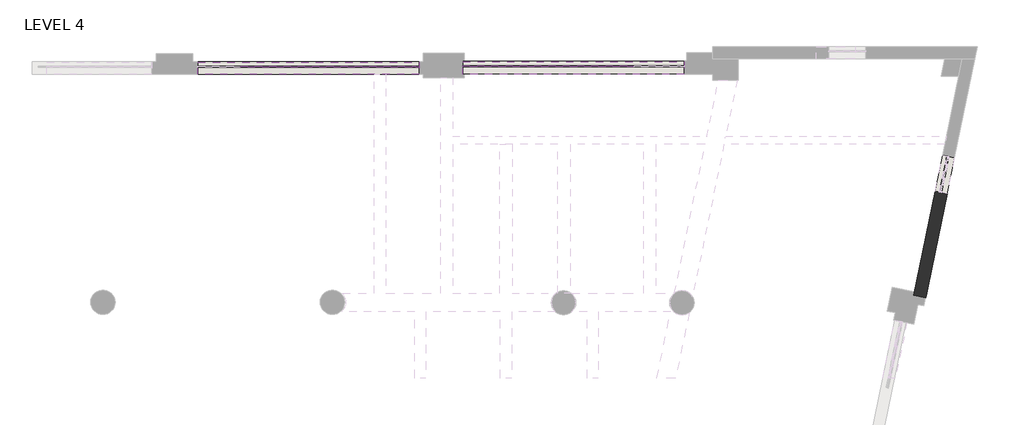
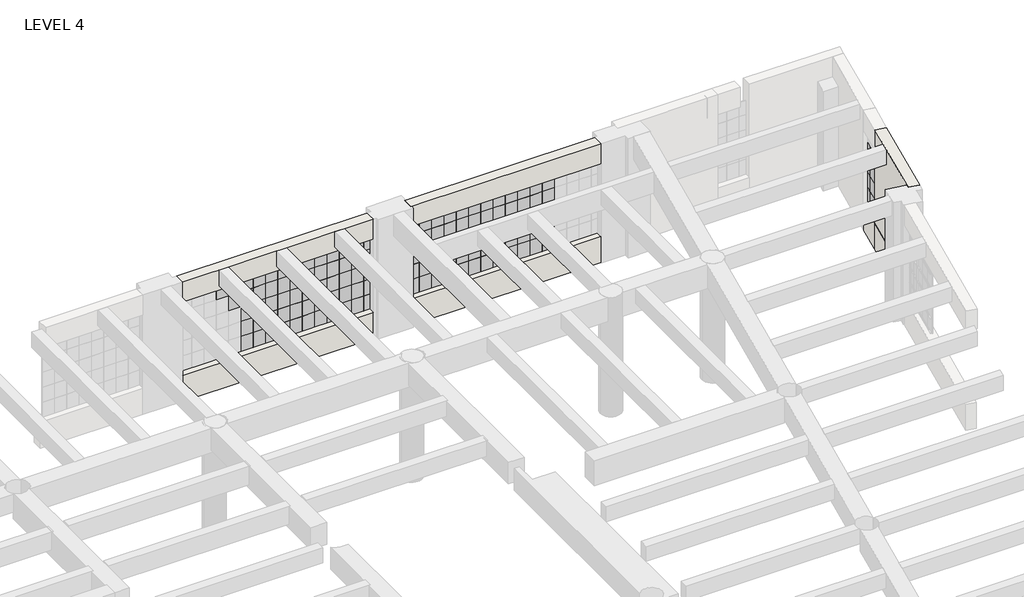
# One storey, part 24 of 26: 130 plates, 6 walls.
"""IFC4 building model written with IfcOpenShell, lengths in millimetres."""

from ifc_helpers import new_model, si_unit, frame, origin, origin_with_axes, place, context, project, spatial, polyline, outline, extrude, faceted_brep, transform, mapped, element, save
from components import system_panel_glazed_656c6057, system_panel_glazed_571c87ee, system_panel_glazed_44deb75c, system_panel_glazed_ace83418, system_panel_glazed_3772fe24

model = new_model("IFC4")

# Units and contexts
model_context = context("Model", 3, world=origin())
ifc_project = project(units=[si_unit("LENGTHUNIT", "METRE", prefix="MILLI")], contexts=[model_context])

# Site, building, storey
site = spatial("IfcSite", under=ifc_project)
building = spatial("IfcBuilding", under=site)
storey = spatial("IfcBuildingStorey", under=building, Name="LEVEL 4", Elevation=0.0)

# Plates
placement = place(None, origin())
system_panel_glazed_shape = system_panel_glazed_656c6057(model_context)
element("IfcPlate", 1, ObjectType="System Panel : Glazed", at=placement, inside=storey, context=model_context, shape_type="MappedRepresentation", body=[
    mapped(system_panel_glazed_shape, transform((11829.7290146, 117175.0421498, 800.1), x_axis=(1.0, 0.0, 0.0), y_axis=(0.0, 1.0, 0.0), z_axis=(0.0, 0.0, 1.0))),
])
element("IfcPlate", 2, ObjectType="System Panel : Glazed", at=placement, inside=storey, context=model_context, shape_type="MappedRepresentation", body=[
    mapped(system_panel_glazed_shape, transform((12185.3290147, 117175.0421498, 800.1), x_axis=(1.0, 0.0, 0.0), y_axis=(0.0, 1.0, 0.0), z_axis=(0.0, 0.0, 1.0))),
])
element("IfcPlate", 3, ObjectType="System Panel : Glazed", at=placement, inside=storey, context=model_context, shape_type="MappedRepresentation", body=[
    mapped(system_panel_glazed_shape, transform((12540.9290147, 117175.0421498, 800.1), x_axis=(1.0, 0.0, 0.0), y_axis=(0.0, 1.0, 0.0), z_axis=(0.0, 0.0, 1.0))),
])
element("IfcPlate", 4, ObjectType="System Panel : Glazed", at=placement, inside=storey, context=model_context, shape_type="MappedRepresentation", body=[
    mapped(system_panel_glazed_shape, transform((12896.5290147, 117175.0421498, 800.1), x_axis=(1.0, 0.0, 0.0), y_axis=(0.0, 1.0, 0.0), z_axis=(0.0, 0.0, 1.0))),
])
element("IfcPlate", 5, ObjectType="System Panel : Glazed", at=placement, inside=storey, context=model_context, shape_type="MappedRepresentation", body=[
    mapped(system_panel_glazed_shape, transform((23596.5298397, 114237.3310321, 800.1), x_axis=(0.2022212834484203, 0.979339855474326, 0.0), y_axis=(-0.979339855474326, 0.2022212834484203, 0.0), z_axis=(0.0, 0.0, 1.0))),
])
element("IfcPlate", 6, ObjectType="System Panel : Glazed", at=placement, inside=storey, context=model_context, shape_type="MappedRepresentation", body=[
    mapped(system_panel_glazed_shape, transform((23668.4397282, 114585.5842849, 800.1), x_axis=(0.2022212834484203, 0.979339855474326, 0.0), y_axis=(-0.979339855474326, 0.2022212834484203, 0.0), z_axis=(0.0, 0.0, 1.0))),
])
element("IfcPlate", 7, ObjectType="System Panel : Glazed", at=placement, inside=storey, context=model_context, shape_type="MappedRepresentation", body=[
    mapped(system_panel_glazed_shape, transform((7011.5027265, 117161.3480443, 800.1), x_axis=(1.0, 0.0, 0.0), y_axis=(0.0, 1.0, 0.0), z_axis=(0.0, 0.0, 1.0))),
])
element("IfcPlate", 8, ObjectType="System Panel : Glazed", at=placement, inside=storey, context=model_context, shape_type="MappedRepresentation", body=[
    mapped(system_panel_glazed_shape, transform((7367.1027265, 117161.3480443, 800.1), x_axis=(1.0, 0.0, 0.0), y_axis=(0.0, 1.0, 0.0), z_axis=(0.0, 0.0, 1.0))),
])
element("IfcPlate", 9, ObjectType="System Panel : Glazed", at=placement, inside=storey, context=model_context, shape_type="MappedRepresentation", body=[
    mapped(system_panel_glazed_shape, transform((7722.7027265, 117161.3480443, 800.1), x_axis=(1.0, 0.0, 0.0), y_axis=(0.0, 1.0, 0.0), z_axis=(0.0, 0.0, 1.0))),
])
element("IfcPlate", 10, ObjectType="System Panel : Glazed", at=placement, inside=storey, context=model_context, shape_type="MappedRepresentation", body=[
    mapped(system_panel_glazed_shape, transform((8078.3027265, 117161.3480443, 800.1), x_axis=(1.0, 0.0, 0.0), y_axis=(0.0, 1.0, 0.0), z_axis=(0.0, 0.0, 1.0))),
])
element("IfcPlate", 11, ObjectType="System Panel : Glazed", at=placement, inside=storey, context=model_context, shape_type="MappedRepresentation", body=[
    mapped(system_panel_glazed_shape, transform((8433.9027265, 117161.3480443, 800.1), x_axis=(1.0, 0.0, 0.0), y_axis=(0.0, 1.0, 0.0), z_axis=(0.0, 0.0, 1.0))),
])
element("IfcPlate", 12, ObjectType="System Panel : Glazed", at=placement, inside=storey, context=model_context, shape_type="MappedRepresentation", body=[
    mapped(system_panel_glazed_shape, transform((8789.5027265, 117161.3480443, 800.1), x_axis=(1.0, 0.0, 0.0), y_axis=(0.0, 1.0, 0.0), z_axis=(0.0, 0.0, 1.0))),
])
element("IfcPlate", 13, ObjectType="System Panel : Glazed", at=placement, inside=storey, context=model_context, shape_type="MappedRepresentation", body=[
    mapped(system_panel_glazed_shape, transform((9145.1027265, 117161.3480443, 800.1), x_axis=(1.0, 0.0, 0.0), y_axis=(0.0, 1.0, 0.0), z_axis=(0.0, 0.0, 1.0))),
])
element("IfcPlate", 14, ObjectType="System Panel : Glazed", at=placement, inside=storey, context=model_context, shape_type="MappedRepresentation", body=[
    mapped(system_panel_glazed_shape, transform((9500.7027265, 117161.3480443, 800.1), x_axis=(1.0, 0.0, 0.0), y_axis=(0.0, 1.0, 0.0), z_axis=(0.0, 0.0, 1.0))),
])
element("IfcPlate", 15, ObjectType="System Panel : Glazed", at=placement, inside=storey, context=model_context, shape_type="MappedRepresentation", body=[
    mapped(system_panel_glazed_shape, transform((7011.5027265, 117161.3480443, 1257.3), x_axis=(1.0, 0.0, 0.0), y_axis=(0.0, 1.0, 0.0), z_axis=(0.0, 0.0, 1.0))),
])
element("IfcPlate", 16, ObjectType="System Panel : Glazed", at=placement, inside=storey, context=model_context, shape_type="MappedRepresentation", body=[
    mapped(system_panel_glazed_shape, transform((7367.1027265, 117161.3480443, 1257.3), x_axis=(1.0, 0.0, 0.0), y_axis=(0.0, 1.0, 0.0), z_axis=(0.0, 0.0, 1.0))),
])
element("IfcPlate", 17, ObjectType="System Panel : Glazed", at=placement, inside=storey, context=model_context, shape_type="MappedRepresentation", body=[
    mapped(system_panel_glazed_shape, transform((7722.7027265, 117161.3480443, 1257.3), x_axis=(1.0, 0.0, 0.0), y_axis=(0.0, 1.0, 0.0), z_axis=(0.0, 0.0, 1.0))),
])
element("IfcPlate", 18, ObjectType="System Panel : Glazed", at=placement, inside=storey, context=model_context, shape_type="MappedRepresentation", body=[
    mapped(system_panel_glazed_shape, transform((8078.3027265, 117161.3480443, 1257.3), x_axis=(1.0, 0.0, 0.0), y_axis=(0.0, 1.0, 0.0), z_axis=(0.0, 0.0, 1.0))),
])
element("IfcPlate", 19, ObjectType="System Panel : Glazed", at=placement, inside=storey, context=model_context, shape_type="MappedRepresentation", body=[
    mapped(system_panel_glazed_shape, transform((8433.9027265, 117161.3480443, 1257.3), x_axis=(1.0, 0.0, 0.0), y_axis=(0.0, 1.0, 0.0), z_axis=(0.0, 0.0, 1.0))),
])
element("IfcPlate", 20, ObjectType="System Panel : Glazed", at=placement, inside=storey, context=model_context, shape_type="MappedRepresentation", body=[
    mapped(system_panel_glazed_shape, transform((8789.5027265, 117161.3480443, 1257.3), x_axis=(1.0, 0.0, 0.0), y_axis=(0.0, 1.0, 0.0), z_axis=(0.0, 0.0, 1.0))),
])
element("IfcPlate", 21, ObjectType="System Panel : Glazed", at=placement, inside=storey, context=model_context, shape_type="MappedRepresentation", body=[
    mapped(system_panel_glazed_shape, transform((9145.1027265, 117161.3480443, 1257.3), x_axis=(1.0, 0.0, 0.0), y_axis=(0.0, 1.0, 0.0), z_axis=(0.0, 0.0, 1.0))),
])
element("IfcPlate", 22, ObjectType="System Panel : Glazed", at=placement, inside=storey, context=model_context, shape_type="MappedRepresentation", body=[
    mapped(system_panel_glazed_shape, transform((9500.7027265, 117161.3480443, 1257.3), x_axis=(1.0, 0.0, 0.0), y_axis=(0.0, 1.0, 0.0), z_axis=(0.0, 0.0, 1.0))),
])
element("IfcPlate", 23, ObjectType="System Panel : Glazed", at=placement, inside=storey, context=model_context, shape_type="MappedRepresentation", body=[
    mapped(system_panel_glazed_shape, transform((7011.5027265, 117161.3480443, 1714.5), x_axis=(1.0, 0.0, 0.0), y_axis=(0.0, 1.0, 0.0), z_axis=(0.0, 0.0, 1.0))),
])
element("IfcPlate", 24, ObjectType="System Panel : Glazed", at=placement, inside=storey, context=model_context, shape_type="MappedRepresentation", body=[
    mapped(system_panel_glazed_shape, transform((7367.1027265, 117161.3480443, 1714.5), x_axis=(1.0, 0.0, 0.0), y_axis=(0.0, 1.0, 0.0), z_axis=(0.0, 0.0, 1.0))),
])
element("IfcPlate", 25, ObjectType="System Panel : Glazed", at=placement, inside=storey, context=model_context, shape_type="MappedRepresentation", body=[
    mapped(system_panel_glazed_shape, transform((7722.7027265, 117161.3480443, 1714.5), x_axis=(1.0, 0.0, 0.0), y_axis=(0.0, 1.0, 0.0), z_axis=(0.0, 0.0, 1.0))),
])
element("IfcPlate", 26, ObjectType="System Panel : Glazed", at=placement, inside=storey, context=model_context, shape_type="MappedRepresentation", body=[
    mapped(system_panel_glazed_shape, transform((8078.3027265, 117161.3480443, 1714.5), x_axis=(1.0, 0.0, 0.0), y_axis=(0.0, 1.0, 0.0), z_axis=(0.0, 0.0, 1.0))),
])
element("IfcPlate", 27, ObjectType="System Panel : Glazed", at=placement, inside=storey, context=model_context, shape_type="MappedRepresentation", body=[
    mapped(system_panel_glazed_shape, transform((8433.9027265, 117161.3480443, 1714.5), x_axis=(1.0, 0.0, 0.0), y_axis=(0.0, 1.0, 0.0), z_axis=(0.0, 0.0, 1.0))),
])
element("IfcPlate", 28, ObjectType="System Panel : Glazed", at=placement, inside=storey, context=model_context, shape_type="MappedRepresentation", body=[
    mapped(system_panel_glazed_shape, transform((8789.5027265, 117161.3480443, 1714.5), x_axis=(1.0, 0.0, 0.0), y_axis=(0.0, 1.0, 0.0), z_axis=(0.0, 0.0, 1.0))),
])
element("IfcPlate", 29, ObjectType="System Panel : Glazed", at=placement, inside=storey, context=model_context, shape_type="MappedRepresentation", body=[
    mapped(system_panel_glazed_shape, transform((9145.1027265, 117161.3480443, 1714.5), x_axis=(1.0, 0.0, 0.0), y_axis=(0.0, 1.0, 0.0), z_axis=(0.0, 0.0, 1.0))),
])
element("IfcPlate", 30, ObjectType="System Panel : Glazed", at=placement, inside=storey, context=model_context, shape_type="MappedRepresentation", body=[
    mapped(system_panel_glazed_shape, transform((9500.7027265, 117161.3480443, 1714.5), x_axis=(1.0, 0.0, 0.0), y_axis=(0.0, 1.0, 0.0), z_axis=(0.0, 0.0, 1.0))),
])
element("IfcPlate", 31, ObjectType="System Panel : Glazed", at=placement, inside=storey, context=model_context, shape_type="MappedRepresentation", body=[
    mapped(system_panel_glazed_shape, transform((6655.9027265, 117161.3480443, 2171.7), x_axis=(1.0, 0.0, 0.0), y_axis=(0.0, 1.0, 0.0), z_axis=(0.0, 0.0, 1.0))),
])
element("IfcPlate", 32, ObjectType="System Panel : Glazed", at=placement, inside=storey, context=model_context, shape_type="MappedRepresentation", body=[
    mapped(system_panel_glazed_shape, transform((7011.5027265, 117161.3480443, 2171.7), x_axis=(1.0, 0.0, 0.0), y_axis=(0.0, 1.0, 0.0), z_axis=(0.0, 0.0, 1.0))),
])
element("IfcPlate", 33, ObjectType="System Panel : Glazed", at=placement, inside=storey, context=model_context, shape_type="MappedRepresentation", body=[
    mapped(system_panel_glazed_shape, transform((7367.1027265, 117161.3480443, 2171.7), x_axis=(1.0, 0.0, 0.0), y_axis=(0.0, 1.0, 0.0), z_axis=(0.0, 0.0, 1.0))),
])
element("IfcPlate", 34, ObjectType="System Panel : Glazed", at=placement, inside=storey, context=model_context, shape_type="MappedRepresentation", body=[
    mapped(system_panel_glazed_shape, transform((7722.7027265, 117161.3480443, 2171.7), x_axis=(1.0, 0.0, 0.0), y_axis=(0.0, 1.0, 0.0), z_axis=(0.0, 0.0, 1.0))),
])
element("IfcPlate", 35, ObjectType="System Panel : Glazed", at=placement, inside=storey, context=model_context, shape_type="MappedRepresentation", body=[
    mapped(system_panel_glazed_shape, transform((8078.3027265, 117161.3480443, 2171.7), x_axis=(1.0, 0.0, 0.0), y_axis=(0.0, 1.0, 0.0), z_axis=(0.0, 0.0, 1.0))),
])
element("IfcPlate", 36, ObjectType="System Panel : Glazed", at=placement, inside=storey, context=model_context, shape_type="MappedRepresentation", body=[
    mapped(system_panel_glazed_shape, transform((8433.9027265, 117161.3480443, 2171.7), x_axis=(1.0, 0.0, 0.0), y_axis=(0.0, 1.0, 0.0), z_axis=(0.0, 0.0, 1.0))),
])
element("IfcPlate", 37, ObjectType="System Panel : Glazed", at=placement, inside=storey, context=model_context, shape_type="MappedRepresentation", body=[
    mapped(system_panel_glazed_shape, transform((8789.5027265, 117161.3480443, 2171.7), x_axis=(1.0, 0.0, 0.0), y_axis=(0.0, 1.0, 0.0), z_axis=(0.0, 0.0, 1.0))),
])
element("IfcPlate", 38, ObjectType="System Panel : Glazed", at=placement, inside=storey, context=model_context, shape_type="MappedRepresentation", body=[
    mapped(system_panel_glazed_shape, transform((9145.1027265, 117161.3480443, 2171.7), x_axis=(1.0, 0.0, 0.0), y_axis=(0.0, 1.0, 0.0), z_axis=(0.0, 0.0, 1.0))),
])
element("IfcPlate", 39, ObjectType="System Panel : Glazed", at=placement, inside=storey, context=model_context, shape_type="MappedRepresentation", body=[
    mapped(system_panel_glazed_shape, transform((9500.7027265, 117161.3480443, 2171.7), x_axis=(1.0, 0.0, 0.0), y_axis=(0.0, 1.0, 0.0), z_axis=(0.0, 0.0, 1.0))),
])
element("IfcPlate", 40, ObjectType="System Panel : Glazed", at=placement, inside=storey, context=model_context, shape_type="MappedRepresentation", body=[
    mapped(system_panel_glazed_shape, transform((13252.1290147, 117175.0421498, 800.1), x_axis=(1.0, 0.0, 0.0), y_axis=(0.0, 1.0, 0.0), z_axis=(0.0, 0.0, 1.0))),
])
element("IfcPlate", 41, ObjectType="System Panel : Glazed", at=placement, inside=storey, context=model_context, shape_type="MappedRepresentation", body=[
    mapped(system_panel_glazed_shape, transform((13607.7290147, 117175.0421498, 800.1), x_axis=(1.0, 0.0, 0.0), y_axis=(0.0, 1.0, 0.0), z_axis=(0.0, 0.0, 1.0))),
])
element("IfcPlate", 42, ObjectType="System Panel : Glazed", at=placement, inside=storey, context=model_context, shape_type="MappedRepresentation", body=[
    mapped(system_panel_glazed_shape, transform((13963.3290147, 117175.0421498, 800.1), x_axis=(1.0, 0.0, 0.0), y_axis=(0.0, 1.0, 0.0), z_axis=(0.0, 0.0, 1.0))),
])
element("IfcPlate", 43, ObjectType="System Panel : Glazed", at=placement, inside=storey, context=model_context, shape_type="MappedRepresentation", body=[
    mapped(system_panel_glazed_shape, transform((14318.9290147, 117175.0421498, 800.1), x_axis=(1.0, 0.0, 0.0), y_axis=(0.0, 1.0, 0.0), z_axis=(0.0, 0.0, 1.0))),
])
element("IfcPlate", 44, ObjectType="System Panel : Glazed", at=placement, inside=storey, context=model_context, shape_type="MappedRepresentation", body=[
    mapped(system_panel_glazed_shape, transform((14674.5290147, 117175.0421498, 800.1), x_axis=(1.0, 0.0, 0.0), y_axis=(0.0, 1.0, 0.0), z_axis=(0.0, 0.0, 1.0))),
])
element("IfcPlate", 45, ObjectType="System Panel : Glazed", at=placement, inside=storey, context=model_context, shape_type="MappedRepresentation", body=[
    mapped(system_panel_glazed_shape, transform((15030.1290147, 117175.0421498, 800.1), x_axis=(1.0, 0.0, 0.0), y_axis=(0.0, 1.0, 0.0), z_axis=(0.0, 0.0, 1.0))),
])
element("IfcPlate", 46, ObjectType="System Panel : Glazed", at=placement, inside=storey, context=model_context, shape_type="MappedRepresentation", body=[
    mapped(system_panel_glazed_shape, transform((15385.7290147, 117175.0421498, 800.1), x_axis=(1.0, 0.0, 0.0), y_axis=(0.0, 1.0, 0.0), z_axis=(0.0, 0.0, 1.0))),
])
element("IfcPlate", 47, ObjectType="System Panel : Glazed", at=placement, inside=storey, context=model_context, shape_type="MappedRepresentation", body=[
    mapped(system_panel_glazed_shape, transform((15741.3290147, 117175.0421498, 800.1), x_axis=(1.0, 0.0, 0.0), y_axis=(0.0, 1.0, 0.0), z_axis=(0.0, 0.0, 1.0))),
])
element("IfcPlate", 48, ObjectType="System Panel : Glazed", at=placement, inside=storey, context=model_context, shape_type="MappedRepresentation", body=[
    mapped(system_panel_glazed_shape, transform((11829.7290146, 117175.0421498, 1257.3), x_axis=(1.0, 0.0, 0.0), y_axis=(0.0, 1.0, 0.0), z_axis=(0.0, 0.0, 1.0))),
])
element("IfcPlate", 49, ObjectType="System Panel : Glazed", at=placement, inside=storey, context=model_context, shape_type="MappedRepresentation", body=[
    mapped(system_panel_glazed_shape, transform((12185.3290147, 117175.0421498, 1257.3), x_axis=(1.0, 0.0, 0.0), y_axis=(0.0, 1.0, 0.0), z_axis=(0.0, 0.0, 1.0))),
])
element("IfcPlate", 50, ObjectType="System Panel : Glazed", at=placement, inside=storey, context=model_context, shape_type="MappedRepresentation", body=[
    mapped(system_panel_glazed_shape, transform((12540.9290147, 117175.0421498, 1257.3), x_axis=(1.0, 0.0, 0.0), y_axis=(0.0, 1.0, 0.0), z_axis=(0.0, 0.0, 1.0))),
])
element("IfcPlate", 51, ObjectType="System Panel : Glazed", at=placement, inside=storey, context=model_context, shape_type="MappedRepresentation", body=[
    mapped(system_panel_glazed_shape, transform((12896.5290147, 117175.0421498, 1257.3), x_axis=(1.0, 0.0, 0.0), y_axis=(0.0, 1.0, 0.0), z_axis=(0.0, 0.0, 1.0))),
])
element("IfcPlate", 52, ObjectType="System Panel : Glazed", at=placement, inside=storey, context=model_context, shape_type="MappedRepresentation", body=[
    mapped(system_panel_glazed_shape, transform((13252.1290147, 117175.0421498, 1257.3), x_axis=(1.0, 0.0, 0.0), y_axis=(0.0, 1.0, 0.0), z_axis=(0.0, 0.0, 1.0))),
])
element("IfcPlate", 53, ObjectType="System Panel : Glazed", at=placement, inside=storey, context=model_context, shape_type="MappedRepresentation", body=[
    mapped(system_panel_glazed_shape, transform((13607.7290147, 117175.0421498, 1257.3), x_axis=(1.0, 0.0, 0.0), y_axis=(0.0, 1.0, 0.0), z_axis=(0.0, 0.0, 1.0))),
])
element("IfcPlate", 54, ObjectType="System Panel : Glazed", at=placement, inside=storey, context=model_context, shape_type="MappedRepresentation", body=[
    mapped(system_panel_glazed_shape, transform((13963.3290147, 117175.0421498, 1257.3), x_axis=(1.0, 0.0, 0.0), y_axis=(0.0, 1.0, 0.0), z_axis=(0.0, 0.0, 1.0))),
])
element("IfcPlate", 55, ObjectType="System Panel : Glazed", at=placement, inside=storey, context=model_context, shape_type="MappedRepresentation", body=[
    mapped(system_panel_glazed_shape, transform((14318.9290147, 117175.0421498, 1257.3), x_axis=(1.0, 0.0, 0.0), y_axis=(0.0, 1.0, 0.0), z_axis=(0.0, 0.0, 1.0))),
])
element("IfcPlate", 56, ObjectType="System Panel : Glazed", at=placement, inside=storey, context=model_context, shape_type="MappedRepresentation", body=[
    mapped(system_panel_glazed_shape, transform((14674.5290147, 117175.0421498, 1257.3), x_axis=(1.0, 0.0, 0.0), y_axis=(0.0, 1.0, 0.0), z_axis=(0.0, 0.0, 1.0))),
])
element("IfcPlate", 57, ObjectType="System Panel : Glazed", at=placement, inside=storey, context=model_context, shape_type="MappedRepresentation", body=[
    mapped(system_panel_glazed_shape, transform((15030.1290147, 117175.0421498, 1257.3), x_axis=(1.0, 0.0, 0.0), y_axis=(0.0, 1.0, 0.0), z_axis=(0.0, 0.0, 1.0))),
])
element("IfcPlate", 58, ObjectType="System Panel : Glazed", at=placement, inside=storey, context=model_context, shape_type="MappedRepresentation", body=[
    mapped(system_panel_glazed_shape, transform((15385.7290147, 117175.0421498, 1257.3), x_axis=(1.0, 0.0, 0.0), y_axis=(0.0, 1.0, 0.0), z_axis=(0.0, 0.0, 1.0))),
])
element("IfcPlate", 59, ObjectType="System Panel : Glazed", at=placement, inside=storey, context=model_context, shape_type="MappedRepresentation", body=[
    mapped(system_panel_glazed_shape, transform((15741.3290147, 117175.0421498, 1257.3), x_axis=(1.0, 0.0, 0.0), y_axis=(0.0, 1.0, 0.0), z_axis=(0.0, 0.0, 1.0))),
])
element("IfcPlate", 60, ObjectType="System Panel : Glazed", at=placement, inside=storey, context=model_context, shape_type="MappedRepresentation", body=[
    mapped(system_panel_glazed_shape, transform((11829.7290146, 117175.0421498, 1714.5), x_axis=(1.0, 0.0, 0.0), y_axis=(0.0, 1.0, 0.0), z_axis=(0.0, 0.0, 1.0))),
])
element("IfcPlate", 61, ObjectType="System Panel : Glazed", at=placement, inside=storey, context=model_context, shape_type="MappedRepresentation", body=[
    mapped(system_panel_glazed_shape, transform((12185.3290147, 117175.0421498, 1714.5), x_axis=(1.0, 0.0, 0.0), y_axis=(0.0, 1.0, 0.0), z_axis=(0.0, 0.0, 1.0))),
])
element("IfcPlate", 62, ObjectType="System Panel : Glazed", at=placement, inside=storey, context=model_context, shape_type="MappedRepresentation", body=[
    mapped(system_panel_glazed_shape, transform((12540.9290147, 117175.0421498, 1714.5), x_axis=(1.0, 0.0, 0.0), y_axis=(0.0, 1.0, 0.0), z_axis=(0.0, 0.0, 1.0))),
])
element("IfcPlate", 63, ObjectType="System Panel : Glazed", at=placement, inside=storey, context=model_context, shape_type="MappedRepresentation", body=[
    mapped(system_panel_glazed_shape, transform((12896.5290147, 117175.0421498, 1714.5), x_axis=(1.0, 0.0, 0.0), y_axis=(0.0, 1.0, 0.0), z_axis=(0.0, 0.0, 1.0))),
])
element("IfcPlate", 64, ObjectType="System Panel : Glazed", at=placement, inside=storey, context=model_context, shape_type="MappedRepresentation", body=[
    mapped(system_panel_glazed_shape, transform((13252.1290147, 117175.0421498, 1714.5), x_axis=(1.0, 0.0, 0.0), y_axis=(0.0, 1.0, 0.0), z_axis=(0.0, 0.0, 1.0))),
])
element("IfcPlate", 65, ObjectType="System Panel : Glazed", at=placement, inside=storey, context=model_context, shape_type="MappedRepresentation", body=[
    mapped(system_panel_glazed_shape, transform((13607.7290147, 117175.0421498, 1714.5), x_axis=(1.0, 0.0, 0.0), y_axis=(0.0, 1.0, 0.0), z_axis=(0.0, 0.0, 1.0))),
])
element("IfcPlate", 66, ObjectType="System Panel : Glazed", at=placement, inside=storey, context=model_context, shape_type="MappedRepresentation", body=[
    mapped(system_panel_glazed_shape, transform((13963.3290147, 117175.0421498, 1714.5), x_axis=(1.0, 0.0, 0.0), y_axis=(0.0, 1.0, 0.0), z_axis=(0.0, 0.0, 1.0))),
])
element("IfcPlate", 67, ObjectType="System Panel : Glazed", at=placement, inside=storey, context=model_context, shape_type="MappedRepresentation", body=[
    mapped(system_panel_glazed_shape, transform((14318.9290147, 117175.0421498, 1714.5), x_axis=(1.0, 0.0, 0.0), y_axis=(0.0, 1.0, 0.0), z_axis=(0.0, 0.0, 1.0))),
])
element("IfcPlate", 68, ObjectType="System Panel : Glazed", at=placement, inside=storey, context=model_context, shape_type="MappedRepresentation", body=[
    mapped(system_panel_glazed_shape, transform((14674.5290147, 117175.0421498, 1714.5), x_axis=(1.0, 0.0, 0.0), y_axis=(0.0, 1.0, 0.0), z_axis=(0.0, 0.0, 1.0))),
])
element("IfcPlate", 69, ObjectType="System Panel : Glazed", at=placement, inside=storey, context=model_context, shape_type="MappedRepresentation", body=[
    mapped(system_panel_glazed_shape, transform((15030.1290147, 117175.0421498, 1714.5), x_axis=(1.0, 0.0, 0.0), y_axis=(0.0, 1.0, 0.0), z_axis=(0.0, 0.0, 1.0))),
])
element("IfcPlate", 70, ObjectType="System Panel : Glazed", at=placement, inside=storey, context=model_context, shape_type="MappedRepresentation", body=[
    mapped(system_panel_glazed_shape, transform((15385.7290147, 117175.0421498, 1714.5), x_axis=(1.0, 0.0, 0.0), y_axis=(0.0, 1.0, 0.0), z_axis=(0.0, 0.0, 1.0))),
])
element("IfcPlate", 71, ObjectType="System Panel : Glazed", at=placement, inside=storey, context=model_context, shape_type="MappedRepresentation", body=[
    mapped(system_panel_glazed_shape, transform((15741.3290147, 117175.0421498, 1714.5), x_axis=(1.0, 0.0, 0.0), y_axis=(0.0, 1.0, 0.0), z_axis=(0.0, 0.0, 1.0))),
])
element("IfcPlate", 72, ObjectType="System Panel : Glazed", at=placement, inside=storey, context=model_context, shape_type="MappedRepresentation", body=[
    mapped(system_panel_glazed_shape, transform((11829.7290146, 117175.0421498, 2171.7), x_axis=(1.0, 0.0, 0.0), y_axis=(0.0, 1.0, 0.0), z_axis=(0.0, 0.0, 1.0))),
])
element("IfcPlate", 73, ObjectType="System Panel : Glazed", at=placement, inside=storey, context=model_context, shape_type="MappedRepresentation", body=[
    mapped(system_panel_glazed_shape, transform((12185.3290147, 117175.0421498, 2171.7), x_axis=(1.0, 0.0, 0.0), y_axis=(0.0, 1.0, 0.0), z_axis=(0.0, 0.0, 1.0))),
])
element("IfcPlate", 74, ObjectType="System Panel : Glazed", at=placement, inside=storey, context=model_context, shape_type="MappedRepresentation", body=[
    mapped(system_panel_glazed_shape, transform((12540.9290147, 117175.0421498, 2171.7), x_axis=(1.0, 0.0, 0.0), y_axis=(0.0, 1.0, 0.0), z_axis=(0.0, 0.0, 1.0))),
])
element("IfcPlate", 75, ObjectType="System Panel : Glazed", at=placement, inside=storey, context=model_context, shape_type="MappedRepresentation", body=[
    mapped(system_panel_glazed_shape, transform((12896.5290147, 117175.0421498, 2171.7), x_axis=(1.0, 0.0, 0.0), y_axis=(0.0, 1.0, 0.0), z_axis=(0.0, 0.0, 1.0))),
])
element("IfcPlate", 76, ObjectType="System Panel : Glazed", at=placement, inside=storey, context=model_context, shape_type="MappedRepresentation", body=[
    mapped(system_panel_glazed_shape, transform((13252.1290147, 117175.0421498, 2171.7), x_axis=(1.0, 0.0, 0.0), y_axis=(0.0, 1.0, 0.0), z_axis=(0.0, 0.0, 1.0))),
])
element("IfcPlate", 77, ObjectType="System Panel : Glazed", at=placement, inside=storey, context=model_context, shape_type="MappedRepresentation", body=[
    mapped(system_panel_glazed_shape, transform((13607.7290147, 117175.0421498, 2171.7), x_axis=(1.0, 0.0, 0.0), y_axis=(0.0, 1.0, 0.0), z_axis=(0.0, 0.0, 1.0))),
])
element("IfcPlate", 78, ObjectType="System Panel : Glazed", at=placement, inside=storey, context=model_context, shape_type="MappedRepresentation", body=[
    mapped(system_panel_glazed_shape, transform((13963.3290147, 117175.0421498, 2171.7), x_axis=(1.0, 0.0, 0.0), y_axis=(0.0, 1.0, 0.0), z_axis=(0.0, 0.0, 1.0))),
])
element("IfcPlate", 79, ObjectType="System Panel : Glazed", at=placement, inside=storey, context=model_context, shape_type="MappedRepresentation", body=[
    mapped(system_panel_glazed_shape, transform((14318.9290147, 117175.0421498, 2171.7), x_axis=(1.0, 0.0, 0.0), y_axis=(0.0, 1.0, 0.0), z_axis=(0.0, 0.0, 1.0))),
])
element("IfcPlate", 80, ObjectType="System Panel : Glazed", at=placement, inside=storey, context=model_context, shape_type="MappedRepresentation", body=[
    mapped(system_panel_glazed_shape, transform((14674.5290147, 117175.0421498, 2171.7), x_axis=(1.0, 0.0, 0.0), y_axis=(0.0, 1.0, 0.0), z_axis=(0.0, 0.0, 1.0))),
])
element("IfcPlate", 81, ObjectType="System Panel : Glazed", at=placement, inside=storey, context=model_context, shape_type="MappedRepresentation", body=[
    mapped(system_panel_glazed_shape, transform((15030.1290147, 117175.0421498, 2171.7), x_axis=(1.0, 0.0, 0.0), y_axis=(0.0, 1.0, 0.0), z_axis=(0.0, 0.0, 1.0))),
])
element("IfcPlate", 82, ObjectType="System Panel : Glazed", at=placement, inside=storey, context=model_context, shape_type="MappedRepresentation", body=[
    mapped(system_panel_glazed_shape, transform((15385.7290147, 117175.0421498, 2171.7), x_axis=(1.0, 0.0, 0.0), y_axis=(0.0, 1.0, 0.0), z_axis=(0.0, 0.0, 1.0))),
])
element("IfcPlate", 83, ObjectType="System Panel : Glazed", at=placement, inside=storey, context=model_context, shape_type="MappedRepresentation", body=[
    mapped(system_panel_glazed_shape, transform((15741.3290147, 117175.0421498, 2171.7), x_axis=(1.0, 0.0, 0.0), y_axis=(0.0, 1.0, 0.0), z_axis=(0.0, 0.0, 1.0))),
])
element("IfcPlate", 84, ObjectType="System Panel : Glazed", at=placement, inside=storey, context=model_context, shape_type="MappedRepresentation", body=[
    mapped(system_panel_glazed_shape, transform((23596.5298397, 114237.3310321, 1257.3), x_axis=(0.2022212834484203, 0.979339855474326, 0.0), y_axis=(-0.979339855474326, 0.2022212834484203, 0.0), z_axis=(0.0, 0.0, 1.0))),
])
element("IfcPlate", 85, ObjectType="System Panel : Glazed", at=placement, inside=storey, context=model_context, shape_type="MappedRepresentation", body=[
    mapped(system_panel_glazed_shape, transform((23668.4397282, 114585.5842849, 1257.3), x_axis=(0.2022212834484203, 0.979339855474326, 0.0), y_axis=(-0.979339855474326, 0.2022212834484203, 0.0), z_axis=(0.0, 0.0, 1.0))),
])
element("IfcPlate", 86, ObjectType="System Panel : Glazed", at=placement, inside=storey, context=model_context, shape_type="MappedRepresentation", body=[
    mapped(system_panel_glazed_shape, transform((23596.5298397, 114237.3310321, 1714.5), x_axis=(0.2022212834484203, 0.979339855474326, 0.0), y_axis=(-0.979339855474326, 0.2022212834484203, 0.0), z_axis=(0.0, 0.0, 1.0))),
])
element("IfcPlate", 87, ObjectType="System Panel : Glazed", at=placement, inside=storey, context=model_context, shape_type="MappedRepresentation", body=[
    mapped(system_panel_glazed_shape, transform((23668.4397282, 114585.5842849, 1714.5), x_axis=(0.2022212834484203, 0.979339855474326, 0.0), y_axis=(-0.979339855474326, 0.2022212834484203, 0.0), z_axis=(0.0, 0.0, 1.0))),
])
element("IfcPlate", 88, ObjectType="System Panel : Glazed", at=placement, inside=storey, context=model_context, shape_type="MappedRepresentation", body=[
    mapped(system_panel_glazed_shape, transform((23596.5298397, 114237.3310321, 2171.7), x_axis=(0.2022212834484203, 0.979339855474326, 0.0), y_axis=(-0.979339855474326, 0.2022212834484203, 0.0), z_axis=(0.0, 0.0, 1.0))),
])
element("IfcPlate", 89, ObjectType="System Panel : Glazed", at=placement, inside=storey, context=model_context, shape_type="MappedRepresentation", body=[
    mapped(system_panel_glazed_shape, transform((23668.4397282, 114585.5842849, 2171.7), x_axis=(0.2022212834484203, 0.979339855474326, 0.0), y_axis=(-0.979339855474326, 0.2022212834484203, 0.0), z_axis=(0.0, 0.0, 1.0))),
])
element("IfcPlate", 90, ObjectType="System Panel : Glazed", at=placement, inside=storey, context=model_context, shape_type="MappedRepresentation", body=[
    mapped(system_panel_glazed_shape, transform((9856.3027265, 117161.3480443, 800.1), x_axis=(1.0, 0.0, 0.0), y_axis=(0.0, 1.0, 0.0), z_axis=(0.0, 0.0, 1.0))),
])
element("IfcPlate", 91, ObjectType="System Panel : Glazed", at=placement, inside=storey, context=model_context, shape_type="MappedRepresentation", body=[
    mapped(system_panel_glazed_shape, transform((9856.3027265, 117161.3480443, 1257.3), x_axis=(1.0, 0.0, 0.0), y_axis=(0.0, 1.0, 0.0), z_axis=(0.0, 0.0, 1.0))),
])
element("IfcPlate", 92, ObjectType="System Panel : Glazed", at=placement, inside=storey, context=model_context, shape_type="MappedRepresentation", body=[
    mapped(system_panel_glazed_shape, transform((9856.3027265, 117161.3480443, 1714.5), x_axis=(1.0, 0.0, 0.0), y_axis=(0.0, 1.0, 0.0), z_axis=(0.0, 0.0, 1.0))),
])
element("IfcPlate", 93, ObjectType="System Panel : Glazed", at=placement, inside=storey, context=model_context, shape_type="MappedRepresentation", body=[
    mapped(system_panel_glazed_shape, transform((9856.3027265, 117161.3480443, 2171.7), x_axis=(1.0, 0.0, 0.0), y_axis=(0.0, 1.0, 0.0), z_axis=(0.0, 0.0, 1.0))),
])
element("IfcPlate", 94, ObjectType="System Panel : Glazed", at=placement, inside=storey, context=model_context, shape_type="MappedRepresentation", body=[
    mapped(system_panel_glazed_shape, transform((10211.9027265, 117161.3480443, 800.1), x_axis=(1.0, 0.0, 0.0), y_axis=(0.0, 1.0, 0.0), z_axis=(0.0, 0.0, 1.0))),
])
element("IfcPlate", 95, ObjectType="System Panel : Glazed", at=placement, inside=storey, context=model_context, shape_type="MappedRepresentation", body=[
    mapped(system_panel_glazed_shape, transform((10211.9027265, 117161.3480443, 1257.3), x_axis=(1.0, 0.0, 0.0), y_axis=(0.0, 1.0, 0.0), z_axis=(0.0, 0.0, 1.0))),
])
element("IfcPlate", 96, ObjectType="System Panel : Glazed", at=placement, inside=storey, context=model_context, shape_type="MappedRepresentation", body=[
    mapped(system_panel_glazed_shape, transform((10211.9027265, 117161.3480443, 1714.5), x_axis=(1.0, 0.0, 0.0), y_axis=(0.0, 1.0, 0.0), z_axis=(0.0, 0.0, 1.0))),
])
element("IfcPlate", 97, ObjectType="System Panel : Glazed", at=placement, inside=storey, context=model_context, shape_type="MappedRepresentation", body=[
    mapped(system_panel_glazed_shape, transform((10211.9027265, 117161.3480443, 2171.7), x_axis=(1.0, 0.0, 0.0), y_axis=(0.0, 1.0, 0.0), z_axis=(0.0, 0.0, 1.0))),
])
system_panel_glazed_2_shape = system_panel_glazed_571c87ee(model_context)
element("IfcPlate", 98, ObjectType="System Panel : Glazed", at=placement, inside=storey, context=model_context, shape_type="MappedRepresentation", body=[
    mapped(system_panel_glazed_2_shape, transform((10478.7342021, 117161.3480443, 800.1), x_axis=(1.0, 0.0, 0.0), y_axis=(0.0, 1.0, 0.0), z_axis=(0.0, 0.0, 1.0))),
])
element("IfcPlate", 99, ObjectType="System Panel : Glazed", at=placement, inside=storey, context=model_context, shape_type="MappedRepresentation", body=[
    mapped(system_panel_glazed_2_shape, transform((10478.7342021, 117161.3480443, 1257.3), x_axis=(1.0, 0.0, 0.0), y_axis=(0.0, 1.0, 0.0), z_axis=(0.0, 0.0, 1.0))),
])
element("IfcPlate", 100, ObjectType="System Panel : Glazed", at=placement, inside=storey, context=model_context, shape_type="MappedRepresentation", body=[
    mapped(system_panel_glazed_2_shape, transform((10478.7342021, 117161.3480443, 1714.5), x_axis=(1.0, 0.0, 0.0), y_axis=(0.0, 1.0, 0.0), z_axis=(0.0, 0.0, 1.0))),
])
element("IfcPlate", 101, ObjectType="System Panel : Glazed", at=placement, inside=storey, context=model_context, shape_type="MappedRepresentation", body=[
    mapped(system_panel_glazed_2_shape, transform((10478.7342021, 117161.3480443, 2171.7), x_axis=(1.0, 0.0, 0.0), y_axis=(0.0, 1.0, 0.0), z_axis=(0.0, 0.0, 1.0))),
])
system_panel_glazed_3_shape = system_panel_glazed_44deb75c(model_context)
element("IfcPlate", 102, ObjectType="System Panel : Glazed", at=placement, inside=storey, context=model_context, shape_type="MappedRepresentation", body=[
    mapped(system_panel_glazed_3_shape, transform((6300.3027265, 117161.3480443, 2628.9), x_axis=(1.0, 0.0, 0.0), y_axis=(0.0, 1.0, 0.0), z_axis=(0.0, 0.0, 1.0))),
])
element("IfcPlate", 103, ObjectType="System Panel : Glazed", at=placement, inside=storey, context=model_context, shape_type="MappedRepresentation", body=[
    mapped(system_panel_glazed_3_shape, transform((6655.9027265, 117161.3480443, 2628.9), x_axis=(1.0, 0.0, 0.0), y_axis=(0.0, 1.0, 0.0), z_axis=(0.0, 0.0, 1.0))),
])
element("IfcPlate", 104, ObjectType="System Panel : Glazed", at=placement, inside=storey, context=model_context, shape_type="MappedRepresentation", body=[
    mapped(system_panel_glazed_3_shape, transform((7011.5027265, 117161.3480443, 2628.9), x_axis=(1.0, 0.0, 0.0), y_axis=(0.0, 1.0, 0.0), z_axis=(0.0, 0.0, 1.0))),
])
element("IfcPlate", 105, ObjectType="System Panel : Glazed", at=placement, inside=storey, context=model_context, shape_type="MappedRepresentation", body=[
    mapped(system_panel_glazed_3_shape, transform((7367.1027265, 117161.3480443, 2628.9), x_axis=(1.0, 0.0, 0.0), y_axis=(0.0, 1.0, 0.0), z_axis=(0.0, 0.0, 1.0))),
])
element("IfcPlate", 106, ObjectType="System Panel : Glazed", at=placement, inside=storey, context=model_context, shape_type="MappedRepresentation", body=[
    mapped(system_panel_glazed_3_shape, transform((7722.7027265, 117161.3480443, 2628.9), x_axis=(1.0, 0.0, 0.0), y_axis=(0.0, 1.0, 0.0), z_axis=(0.0, 0.0, 1.0))),
])
element("IfcPlate", 107, ObjectType="System Panel : Glazed", at=placement, inside=storey, context=model_context, shape_type="MappedRepresentation", body=[
    mapped(system_panel_glazed_3_shape, transform((8078.3027265, 117161.3480443, 2628.9), x_axis=(1.0, 0.0, 0.0), y_axis=(0.0, 1.0, 0.0), z_axis=(0.0, 0.0, 1.0))),
])
element("IfcPlate", 108, ObjectType="System Panel : Glazed", at=placement, inside=storey, context=model_context, shape_type="MappedRepresentation", body=[
    mapped(system_panel_glazed_3_shape, transform((8433.9027265, 117161.3480443, 2628.9), x_axis=(1.0, 0.0, 0.0), y_axis=(0.0, 1.0, 0.0), z_axis=(0.0, 0.0, 1.0))),
])
element("IfcPlate", 109, ObjectType="System Panel : Glazed", at=placement, inside=storey, context=model_context, shape_type="MappedRepresentation", body=[
    mapped(system_panel_glazed_3_shape, transform((8789.5027265, 117161.3480443, 2628.9), x_axis=(1.0, 0.0, 0.0), y_axis=(0.0, 1.0, 0.0), z_axis=(0.0, 0.0, 1.0))),
])
element("IfcPlate", 110, ObjectType="System Panel : Glazed", at=placement, inside=storey, context=model_context, shape_type="MappedRepresentation", body=[
    mapped(system_panel_glazed_3_shape, transform((9145.1027265, 117161.3480443, 2628.9), x_axis=(1.0, 0.0, 0.0), y_axis=(0.0, 1.0, 0.0), z_axis=(0.0, 0.0, 1.0))),
])
element("IfcPlate", 111, ObjectType="System Panel : Glazed", at=placement, inside=storey, context=model_context, shape_type="MappedRepresentation", body=[
    mapped(system_panel_glazed_3_shape, transform((9500.7027265, 117161.3480443, 2628.9), x_axis=(1.0, 0.0, 0.0), y_axis=(0.0, 1.0, 0.0), z_axis=(0.0, 0.0, 1.0))),
])
element("IfcPlate", 112, ObjectType="System Panel : Glazed", at=placement, inside=storey, context=model_context, shape_type="MappedRepresentation", body=[
    mapped(system_panel_glazed_3_shape, transform((11829.7290146, 117175.0421498, 2628.9), x_axis=(1.0, 0.0, 0.0), y_axis=(0.0, 1.0, 0.0), z_axis=(0.0, 0.0, 1.0))),
])
element("IfcPlate", 113, ObjectType="System Panel : Glazed", at=placement, inside=storey, context=model_context, shape_type="MappedRepresentation", body=[
    mapped(system_panel_glazed_3_shape, transform((12185.3290147, 117175.0421498, 2628.9), x_axis=(1.0, 0.0, 0.0), y_axis=(0.0, 1.0, 0.0), z_axis=(0.0, 0.0, 1.0))),
])
element("IfcPlate", 114, ObjectType="System Panel : Glazed", at=placement, inside=storey, context=model_context, shape_type="MappedRepresentation", body=[
    mapped(system_panel_glazed_3_shape, transform((12540.9290147, 117175.0421498, 2628.9), x_axis=(1.0, 0.0, 0.0), y_axis=(0.0, 1.0, 0.0), z_axis=(0.0, 0.0, 1.0))),
])
element("IfcPlate", 115, ObjectType="System Panel : Glazed", at=placement, inside=storey, context=model_context, shape_type="MappedRepresentation", body=[
    mapped(system_panel_glazed_3_shape, transform((12896.5290147, 117175.0421498, 2628.9), x_axis=(1.0, 0.0, 0.0), y_axis=(0.0, 1.0, 0.0), z_axis=(0.0, 0.0, 1.0))),
])
element("IfcPlate", 116, ObjectType="System Panel : Glazed", at=placement, inside=storey, context=model_context, shape_type="MappedRepresentation", body=[
    mapped(system_panel_glazed_3_shape, transform((13252.1290147, 117175.0421498, 2628.9), x_axis=(1.0, 0.0, 0.0), y_axis=(0.0, 1.0, 0.0), z_axis=(0.0, 0.0, 1.0))),
])
element("IfcPlate", 117, ObjectType="System Panel : Glazed", at=placement, inside=storey, context=model_context, shape_type="MappedRepresentation", body=[
    mapped(system_panel_glazed_3_shape, transform((13607.7290147, 117175.0421498, 2628.9), x_axis=(1.0, 0.0, 0.0), y_axis=(0.0, 1.0, 0.0), z_axis=(0.0, 0.0, 1.0))),
])
element("IfcPlate", 118, ObjectType="System Panel : Glazed", at=placement, inside=storey, context=model_context, shape_type="MappedRepresentation", body=[
    mapped(system_panel_glazed_3_shape, transform((13963.3290147, 117175.0421498, 2628.9), x_axis=(1.0, 0.0, 0.0), y_axis=(0.0, 1.0, 0.0), z_axis=(0.0, 0.0, 1.0))),
])
element("IfcPlate", 119, ObjectType="System Panel : Glazed", at=placement, inside=storey, context=model_context, shape_type="MappedRepresentation", body=[
    mapped(system_panel_glazed_3_shape, transform((14318.9290147, 117175.0421498, 2628.9), x_axis=(1.0, 0.0, 0.0), y_axis=(0.0, 1.0, 0.0), z_axis=(0.0, 0.0, 1.0))),
])
element("IfcPlate", 120, ObjectType="System Panel : Glazed", at=placement, inside=storey, context=model_context, shape_type="MappedRepresentation", body=[
    mapped(system_panel_glazed_3_shape, transform((14674.5290147, 117175.0421498, 2628.9), x_axis=(1.0, 0.0, 0.0), y_axis=(0.0, 1.0, 0.0), z_axis=(0.0, 0.0, 1.0))),
])
element("IfcPlate", 121, ObjectType="System Panel : Glazed", at=placement, inside=storey, context=model_context, shape_type="MappedRepresentation", body=[
    mapped(system_panel_glazed_3_shape, transform((15030.1290147, 117175.0421498, 2628.9), x_axis=(1.0, 0.0, 0.0), y_axis=(0.0, 1.0, 0.0), z_axis=(0.0, 0.0, 1.0))),
])
element("IfcPlate", 122, ObjectType="System Panel : Glazed", at=placement, inside=storey, context=model_context, shape_type="MappedRepresentation", body=[
    mapped(system_panel_glazed_3_shape, transform((15385.7290147, 117175.0421498, 2628.9), x_axis=(1.0, 0.0, 0.0), y_axis=(0.0, 1.0, 0.0), z_axis=(0.0, 0.0, 1.0))),
])
element("IfcPlate", 123, ObjectType="System Panel : Glazed", at=placement, inside=storey, context=model_context, shape_type="MappedRepresentation", body=[
    mapped(system_panel_glazed_3_shape, transform((15741.3290147, 117175.0421498, 2628.9), x_axis=(1.0, 0.0, 0.0), y_axis=(0.0, 1.0, 0.0), z_axis=(0.0, 0.0, 1.0))),
])
element("IfcPlate", 124, ObjectType="System Panel : Glazed", at=placement, inside=storey, context=model_context, shape_type="MappedRepresentation", body=[
    mapped(system_panel_glazed_3_shape, transform((9856.3027265, 117161.3480443, 2628.9), x_axis=(1.0, 0.0, 0.0), y_axis=(0.0, 1.0, 0.0), z_axis=(0.0, 0.0, 1.0))),
])
element("IfcPlate", 125, ObjectType="System Panel : Glazed", at=placement, inside=storey, context=model_context, shape_type="MappedRepresentation", body=[
    mapped(system_panel_glazed_3_shape, transform((10211.9027265, 117161.3480443, 2628.9), x_axis=(1.0, 0.0, 0.0), y_axis=(0.0, 1.0, 0.0), z_axis=(0.0, 0.0, 1.0))),
])
system_panel_glazed_4_shape = system_panel_glazed_ace83418(model_context)
element("IfcPlate", 126, ObjectType="System Panel : Glazed", at=placement, inside=storey, context=model_context, shape_type="MappedRepresentation", body=[
    mapped(system_panel_glazed_4_shape, transform((10478.7342021, 117161.3480443, 2628.9), x_axis=(1.0, 0.0, 0.0), y_axis=(0.0, 1.0, 0.0), z_axis=(0.0, 0.0, 1.0))),
])
system_panel_glazed_5_shape = system_panel_glazed_3772fe24(model_context)
element("IfcPlate", 127, ObjectType="System Panel : Glazed", at=placement, inside=storey, context=model_context, shape_type="MappedRepresentation", body=[
    mapped(system_panel_glazed_5_shape, transform((23724.9403547, 114859.2118403, 800.1), x_axis=(0.2022212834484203, 0.979339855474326, 0.0), y_axis=(-0.979339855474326, 0.2022212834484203, 0.0), z_axis=(0.0, 0.0, 1.0))),
])
element("IfcPlate", 128, ObjectType="System Panel : Glazed", at=placement, inside=storey, context=model_context, shape_type="MappedRepresentation", body=[
    mapped(system_panel_glazed_5_shape, transform((23724.9403547, 114859.2118403, 1257.3), x_axis=(0.2022212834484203, 0.979339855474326, 0.0), y_axis=(-0.979339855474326, 0.2022212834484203, 0.0), z_axis=(0.0, 0.0, 1.0))),
])
element("IfcPlate", 129, ObjectType="System Panel : Glazed", at=placement, inside=storey, context=model_context, shape_type="MappedRepresentation", body=[
    mapped(system_panel_glazed_5_shape, transform((23724.9403547, 114859.2118403, 1714.5), x_axis=(0.2022212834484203, 0.979339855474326, 0.0), y_axis=(-0.979339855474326, 0.2022212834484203, 0.0), z_axis=(0.0, 0.0, 1.0))),
])
element("IfcPlate", 130, ObjectType="System Panel : Glazed", at=placement, inside=storey, context=model_context, shape_type="MappedRepresentation", body=[
    mapped(system_panel_glazed_5_shape, transform((23724.9403547, 114859.2118403, 2171.7), x_axis=(0.2022212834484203, 0.979339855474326, 0.0), y_axis=(-0.979339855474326, 0.2022212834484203, 0.0), z_axis=(0.0, 0.0, 1.0))),
])

# Walls
element("IfcWall", 131, ObjectType="_Generic - 12\"", at=placement, inside=storey, context=model_context, shape_type="SweptSolid", body=[
    extrude(outline(polyline([(10567.7656776, 117008.9480443), (5055.7027262, 117008.9480443), (5055.7027262, 117313.7480443), (10567.7656776, 117313.7480443), (10567.7656776, 117008.9480443)])), origin_with_axes(), (0.0, 0.0, 1.0), 800.1),
])
element("IfcWall", 132, ObjectType="_Generic - 12\"", at=placement, inside=storey, context=model_context, shape_type="SweptSolid", body=[
    extrude(outline(polyline([(17164.328891, 117022.6421498), (11651.9290144, 117022.6421498), (11651.9290144, 117327.4421498), (17164.328891, 117327.4421498), (17164.328891, 117022.6421498)])), origin_with_axes(), (0.0, 0.0, 1.0), 800.1),
])
element("IfcWall", 133, ObjectType="_Generic - 12\"", at=placement, inside=storey, context=model_context, shape_type="SweptSolid", body=[
    extrude(outline(polyline([(23894.7374311, 114927.8942459), (23185.9113883, 111495.1121845), (22887.4086004, 111556.7492317), (23596.2346431, 114989.5312931), (23894.7374311, 114927.8942459)])), origin_with_axes(), (0.0, 0.0, 1.0), 800.1),
])
element("IfcWall", 134, ObjectType="_Generic - 12\"", at=placement, inside=storey, context=model_context, shape_type="SweptSolid", body=[
    extrude(outline(polyline([(17164.328891, 117008.7591334), (11651.9290144, 117008.7591334), (11651.9290144, 117313.5591334), (17164.328891, 117313.5591334), (17164.328891, 117008.7591334)])), frame((0.0, 0.0, 3048.0), z_axis=(0.0, 0.0, 1.0), x_axis=(1.0, 0.0, 0.0)), (0.0, 0.0, 1.0), 609.6),
])
element("IfcWall", 135, ObjectType="_Generic - 12\"", at=placement, inside=storey, context=model_context, shape_type="SweptSolid", body=[
    extrude(outline(polyline([(10567.5027262, 117006.9515335), (5055.7027262, 117006.9515335), (5055.7027262, 117311.7515335), (10567.5027262, 117311.7515335), (10567.5027262, 117006.9515335)])), frame((0.0, 0.0, 3048.0), z_axis=(0.0, 0.0, 1.0), x_axis=(1.0, 0.0, 0.0)), (0.0, 0.0, 1.0), 609.6),
])
element("IfcWall", 136, ObjectType="_Generic - 12\"", at=placement, inside=storey, context=model_context, shape_type="Brep", body=[
    faceted_brep([(23175.2885865, 111443.6668914, 0.0), (23709.8262895, 114032.3858821, 0.0), (23709.8262895, 114032.3858821, 3657.6), (23175.2885865, 111443.6668914, 3657.6), (22876.7857986, 111505.3039386, 0.0), (22876.7857986, 111505.3039386, 3657.6), (23411.3235015, 114094.0229292, 3657.6), (23411.3235015, 114094.0229292, 3048.0), (23411.3235015, 114094.0229292, 0.0)], [[[0, 1, 2, 3]], [[4, 5, 6, 7, 8]], [[1, 0, 4, 8]], [[2, 1, 8, 7, 6]], [[3, 2, 6, 5]], [[0, 3, 5, 4]]]),
])

save(model, "model.ifc")
